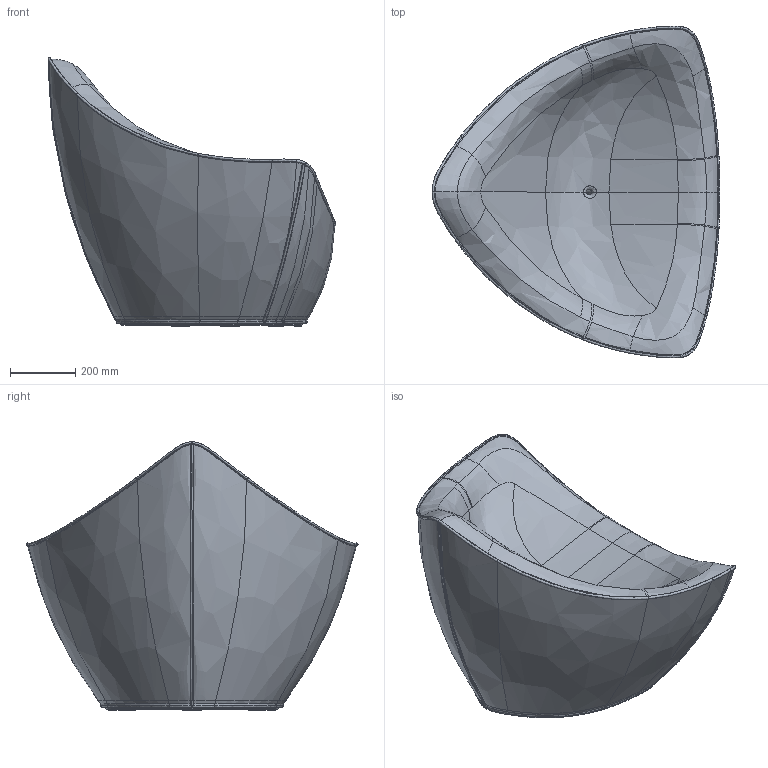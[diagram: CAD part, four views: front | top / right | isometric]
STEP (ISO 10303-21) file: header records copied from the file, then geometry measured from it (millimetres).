
FILE_DESCRIPTION(('CATIA V5 STEP Exchange','CAx-IF Rec.Pracs.--- Composite Materials ---3.4---2017-06-13'),'2;1');
FILE_NAME('T:\PLUST\3D WEB\3D-per-WEB_PLUST-2026\Poltrona-VELA\Poltrona-VELA.stp','2025-09-29T09:22:33+00:00',('none'),('none'),'CATIA Version 5-6 Release 2020 SP3','CATIA V5 STEP AP203 v2','none');
FILE_SCHEMA(('CONFIG_CONTROL_DESIGN'));
Products named in the file (1): Part2
Bounding box: 884.29 x 1019.65 x 824.54 mm (x, y, z)
Volume: 204971143.7 mm3; surface area: 2622780.1 mm2
Topology: 1 solids, 1 shells, 706 faces, 1624 edges, 927 vertices
Faces by surface type: bspline 543, torus 55, plane 36, cylinder 34, extrusion 22, cone 16
Entity records: 99763 total; most frequent: CARTESIAN_POINT 88470, ORIENTED_EDGE 3248, EDGE_CURVE 1624, B_SPLINE_CURVE_WITH_KNOTS 1283, VERTEX_POINT 927, EDGE_LOOP 715, ADVANCED_FACE 706, FACE_OUTER_BOUND 706
